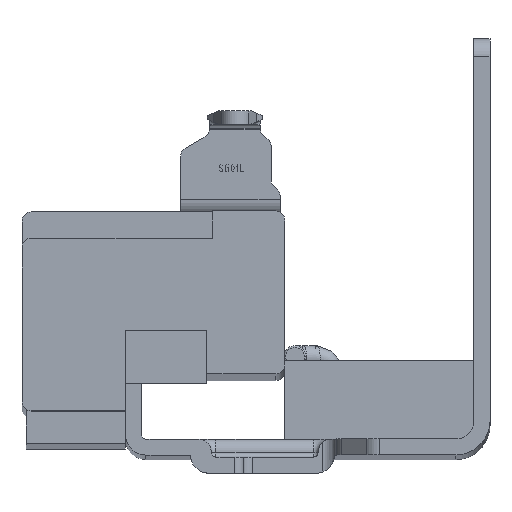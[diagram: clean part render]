
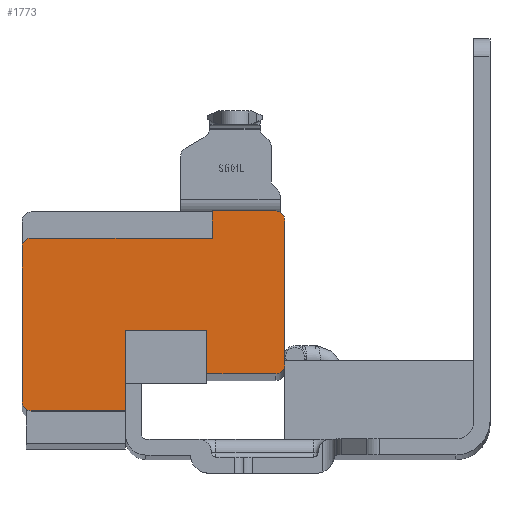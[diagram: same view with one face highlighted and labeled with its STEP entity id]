
A CAD part, top view. The second image highlights one B-rep face of the part: STEP entity #1773.
In plain terms, the highlighted planar face has unit normal (0, 0, 1).
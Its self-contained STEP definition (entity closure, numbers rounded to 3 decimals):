
#95 = CIRCLE ( 'NONE', #10899, 1. ) ;
#118 = LINE ( 'NONE', #574, #5376 ) ;
#136 = VECTOR ( 'NONE', #5961, 1000. ) ;
#288 = CARTESIAN_POINT ( 'NONE',  ( -40.3, -18.1, -18.7 ) ) ;
#358 = ORIENTED_EDGE ( 'NONE', *, *, #10944, .F. ) ;
#574 = CARTESIAN_POINT ( 'NONE',  ( -40.3, -14., -18.7 ) ) ;
#585 = CARTESIAN_POINT ( 'NONE',  ( -70.88, -17.1, -18.7 ) ) ;
#588 = VECTOR ( 'NONE', #7289, 1000. ) ;
#766 = ORIENTED_EDGE ( 'NONE', *, *, #2122, .F. ) ;
#768 = CARTESIAN_POINT ( 'NONE',  ( -71.88, -17.1, -18.7 ) ) ;
#795 = EDGE_CURVE ( 'NONE', #1699, #10483, #5285, .T. ) ;
#1168 = CARTESIAN_POINT ( 'NONE',  ( -43.85, -13., -18.7 ) ) ;
#1201 = DIRECTION ( 'NONE',  ( 0., 0., -1. ) ) ;
#1444 = DIRECTION ( 'NONE',  ( -1., 0., 0. ) ) ;
#1460 = DIRECTION ( 'NONE',  ( -1., 0., 0. ) ) ;
#1597 = FACE_OUTER_BOUND ( 'NONE', #4196, .T. ) ;
#1677 = AXIS2_PLACEMENT_3D ( 'NONE', #585, #6770, #1460 ) ;
#1699 = VERTEX_POINT ( 'NONE', #9166 ) ;
#1718 = CARTESIAN_POINT ( 'NONE',  ( -50.85, 1., -18.7 ) ) ;
#1773 = ADVANCED_FACE ( 'NONE', ( #1597 ), #7514, .T. ) ;
#1914 = LINE ( 'NONE', #6572, #8421 ) ;
#2066 = DIRECTION ( 'NONE',  ( -1., 0., 0. ) ) ;
#2122 = EDGE_CURVE ( 'NONE', #4205, #1699, #10877, .T. ) ;
#2206 = CARTESIAN_POINT ( 'NONE',  ( -40.3, 0., -18.7 ) ) ;
#2278 = ORIENTED_EDGE ( 'NONE', *, *, #9738, .F. ) ;
#2286 = CIRCLE ( 'NONE', #1677, 1. ) ;
#2311 = LINE ( 'NONE', #6820, #9096 ) ;
#3074 = DIRECTION ( 'NONE',  ( 0., 0., 1. ) ) ;
#3128 = DIRECTION ( 'NONE',  ( 0., -1., 0. ) ) ;
#3453 = CARTESIAN_POINT ( 'NONE',  ( -70.88, -18.1, -18.7 ) ) ;
#3491 = VERTEX_POINT ( 'NONE', #10364 ) ;
#3570 = CIRCLE ( 'NONE', #8279, 0.97 ) ;
#3682 = DIRECTION ( 'NONE',  ( 0., 1., 0. ) ) ;
#3708 = EDGE_CURVE ( 'NONE', #4704, #5726, #7344, .T. ) ;
#3781 = ORIENTED_EDGE ( 'NONE', *, *, #5951, .F. ) ;
#3868 = CARTESIAN_POINT ( 'NONE',  ( -71.88, 0., -18.7 ) ) ;
#4014 = EDGE_CURVE ( 'NONE', #7130, #6176, #4844, .T. ) ;
#4034 = CARTESIAN_POINT ( 'NONE',  ( -70.91, 0.03, -18.7 ) ) ;
#4148 = DIRECTION ( 'NONE',  ( -1., 0., 0. ) ) ;
#4186 = ORIENTED_EDGE ( 'NONE', *, *, #4456, .F. ) ;
#4188 = ORIENTED_EDGE ( 'NONE', *, *, #5801, .T. ) ;
#4196 = EDGE_LOOP ( 'NONE', ( #2278, #358, #9850, #766, #5847, #7411, #10949, #4186, #4188, #7006, #10638, #6836, #10084, #3781 ) ) ;
#4205 = VERTEX_POINT ( 'NONE', #10757 ) ;
#4235 = DIRECTION ( 'NONE',  ( 1., 0., 0. ) ) ;
#4420 = CARTESIAN_POINT ( 'NONE',  ( -43.85, -14., -18.7 ) ) ;
#4456 = EDGE_CURVE ( 'NONE', #5598, #8159, #3570, .T. ) ;
#4517 = LINE ( 'NONE', #288, #9240 ) ;
#4629 = VERTEX_POINT ( 'NONE', #768 ) ;
#4704 = VERTEX_POINT ( 'NONE', #1718 ) ;
#4844 = LINE ( 'NONE', #7757, #136 ) ;
#4947 = DIRECTION ( 'NONE',  ( -1., 0., 0. ) ) ;
#5219 = EDGE_CURVE ( 'NONE', #5938, #4629, #2286, .T. ) ;
#5285 = LINE ( 'NONE', #8180, #588 ) ;
#5355 = VECTOR ( 'NONE', #4235, 1000. ) ;
#5376 = VECTOR ( 'NONE', #1444, 1000. ) ;
#5571 = DIRECTION ( 'NONE',  ( 1., 0., 0. ) ) ;
#5598 = VERTEX_POINT ( 'NONE', #6142 ) ;
#5725 = VERTEX_POINT ( 'NONE', #6413 ) ;
#5726 = VERTEX_POINT ( 'NONE', #8210 ) ;
#5783 = AXIS2_PLACEMENT_3D ( 'NONE', #6492, #1201, #7407 ) ;
#5801 = EDGE_CURVE ( 'NONE', #5598, #4629, #11397, .T. ) ;
#5847 = ORIENTED_EDGE ( 'NONE', *, *, #8190, .F. ) ;
#5938 = VERTEX_POINT ( 'NONE', #3453 ) ;
#5951 = EDGE_CURVE ( 'NONE', #3491, #6176, #10304, .T. ) ;
#5961 = DIRECTION ( 'NONE',  ( 1., 0., 0. ) ) ;
#6142 = CARTESIAN_POINT ( 'NONE',  ( -71.88, 0.03, -18.7 ) ) ;
#6176 = VERTEX_POINT ( 'NONE', #6695 ) ;
#6271 = DIRECTION ( 'NONE',  ( 0., 1., 0. ) ) ;
#6315 = CARTESIAN_POINT ( 'NONE',  ( -50.85, 1., -18.7 ) ) ;
#6413 = CARTESIAN_POINT ( 'NONE',  ( -60.45, -18.1, -18.7 ) ) ;
#6492 = CARTESIAN_POINT ( 'NONE',  ( -43.85, 3., -18.7 ) ) ;
#6572 = CARTESIAN_POINT ( 'NONE',  ( -60.45, 0., -18.7 ) ) ;
#6695 = CARTESIAN_POINT ( 'NONE',  ( -51.45, -9.185, -18.7 ) ) ;
#6697 = VECTOR ( 'NONE', #8285, 1000. ) ;
#6770 = DIRECTION ( 'NONE',  ( 0., 0., -1. ) ) ;
#6820 = CARTESIAN_POINT ( 'NONE',  ( -41.05, 1., -18.7 ) ) ;
#6836 = ORIENTED_EDGE ( 'NONE', *, *, #7783, .F. ) ;
#7006 = ORIENTED_EDGE ( 'NONE', *, *, #5219, .F. ) ;
#7130 = VERTEX_POINT ( 'NONE', #10801 ) ;
#7289 = DIRECTION ( 'NONE',  ( 0., -1., 0. ) ) ;
#7344 = LINE ( 'NONE', #6315, #9708 ) ;
#7372 = DIRECTION ( 'NONE',  ( 0., 0., -1. ) ) ;
#7407 = DIRECTION ( 'NONE',  ( -1., 0., 0. ) ) ;
#7411 = ORIENTED_EDGE ( 'NONE', *, *, #3708, .F. ) ;
#7514 = PLANE ( 'NONE',  #8386 ) ;
#7675 = VECTOR ( 'NONE', #6271, 1000. ) ;
#7757 = CARTESIAN_POINT ( 'NONE',  ( -58.68, -9.185, -18.7 ) ) ;
#7783 = EDGE_CURVE ( 'NONE', #7130, #5725, #1914, .T. ) ;
#7996 = LINE ( 'NONE', #8656, #5355 ) ;
#8069 = CARTESIAN_POINT ( 'NONE',  ( -51.45, 0., -18.7 ) ) ;
#8159 = VERTEX_POINT ( 'NONE', #8921 ) ;
#8180 = CARTESIAN_POINT ( 'NONE',  ( -42.85, 0., -18.7 ) ) ;
#8190 = EDGE_CURVE ( 'NONE', #5726, #4205, #7996, .T. ) ;
#8210 = CARTESIAN_POINT ( 'NONE',  ( -50.85, 4., -18.7 ) ) ;
#8279 = AXIS2_PLACEMENT_3D ( 'NONE', #4034, #10264, #4947 ) ;
#8285 = DIRECTION ( 'NONE',  ( 0., -1., 0. ) ) ;
#8386 = AXIS2_PLACEMENT_3D ( 'NONE', #2206, #3074, #9295 ) ;
#8421 = VECTOR ( 'NONE', #3128, 1000. ) ;
#8656 = CARTESIAN_POINT ( 'NONE',  ( -48.65, 4., -18.7 ) ) ;
#8768 = VERTEX_POINT ( 'NONE', #4420 ) ;
#8914 = EDGE_CURVE ( 'NONE', #5938, #5725, #4517, .T. ) ;
#8921 = CARTESIAN_POINT ( 'NONE',  ( -70.91, 1., -18.7 ) ) ;
#9096 = VECTOR ( 'NONE', #4148, 1000. ) ;
#9166 = CARTESIAN_POINT ( 'NONE',  ( -42.85, 3., -18.7 ) ) ;
#9240 = VECTOR ( 'NONE', #5571, 1000. ) ;
#9295 = DIRECTION ( 'NONE',  ( -1., 0., 0. ) ) ;
#9708 = VECTOR ( 'NONE', #3682, 1000. ) ;
#9735 = CARTESIAN_POINT ( 'NONE',  ( -42.85, -13., -18.7 ) ) ;
#9738 = EDGE_CURVE ( 'NONE', #8768, #3491, #118, .T. ) ;
#9850 = ORIENTED_EDGE ( 'NONE', *, *, #795, .F. ) ;
#10084 = ORIENTED_EDGE ( 'NONE', *, *, #4014, .T. ) ;
#10264 = DIRECTION ( 'NONE',  ( 0., 0., -1. ) ) ;
#10304 = LINE ( 'NONE', #8069, #7675 ) ;
#10364 = CARTESIAN_POINT ( 'NONE',  ( -51.45, -14., -18.7 ) ) ;
#10483 = VERTEX_POINT ( 'NONE', #9735 ) ;
#10638 = ORIENTED_EDGE ( 'NONE', *, *, #8914, .T. ) ;
#10659 = EDGE_CURVE ( 'NONE', #4704, #8159, #2311, .T. ) ;
#10757 = CARTESIAN_POINT ( 'NONE',  ( -43.85, 4., -18.7 ) ) ;
#10801 = CARTESIAN_POINT ( 'NONE',  ( -60.45, -9.185, -18.7 ) ) ;
#10877 = CIRCLE ( 'NONE', #5783, 1. ) ;
#10899 = AXIS2_PLACEMENT_3D ( 'NONE', #1168, #7372, #2066 ) ;
#10944 = EDGE_CURVE ( 'NONE', #10483, #8768, #95, .T. ) ;
#10949 = ORIENTED_EDGE ( 'NONE', *, *, #10659, .T. ) ;
#11397 = LINE ( 'NONE', #3868, #6697 ) ;
